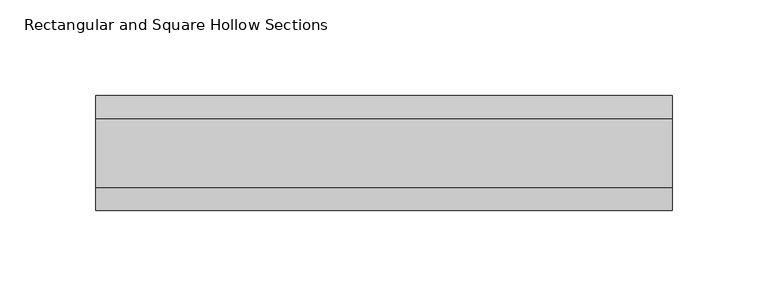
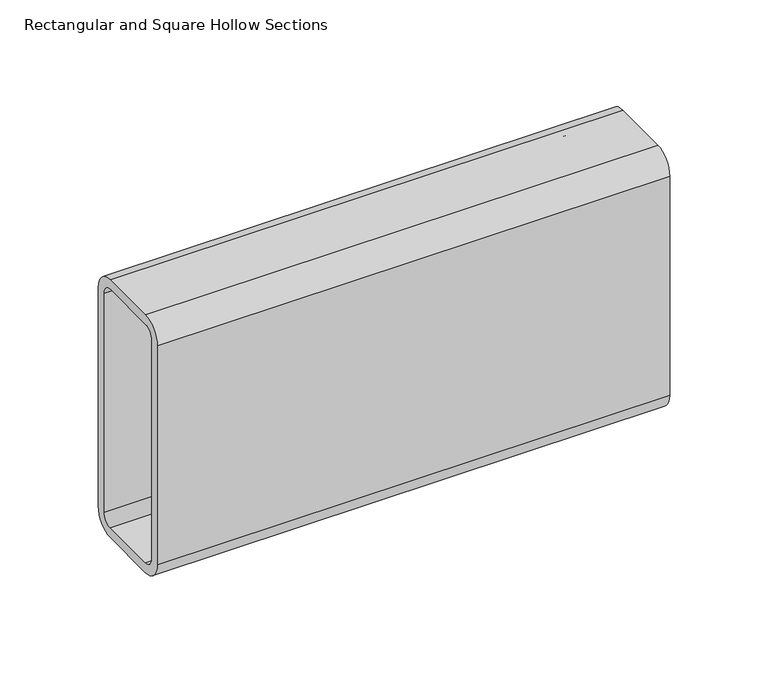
"""IFC4 building model written with IfcOpenShell, lengths in millimetres: beam geometry, Rectangular and Square Hollow Sections : TREC160x60x6."""

from ifc_helpers import new_model, si_unit, point, frame, frame_2d, origin, place, context, project, spatial, polyline, circle_curve, trimmed, segment, composite_curve, outline, extrude, source, transform, mapped, element, save


def rectangular_and_square_hollow_sections_c0d7c366(model_context):
    return source(origin(), model_context, "Body", "SweptSolid", [
        extrude(outline(composite_curve([segment(polyline([(30.0, 68.0), (30.0, -68.0)]), True, "CONTINUOUS"), segment(trimmed(circle_curve(frame_2d((18.0, -68.0)), 12.0), [point((30.0, -68.0))], [point((18.0, -80.0))], False, "CARTESIAN"), True, "CONTINUOUS"), segment(polyline([(18.0, -80.0), (-18.0, -80.0)]), True, "CONTINUOUS"), segment(trimmed(circle_curve(frame_2d((-18.0, -68.0)), 12.0), [point((-18.0, -80.0))], [point((-30.0, -68.0))], False, "CARTESIAN"), True, "CONTINUOUS"), segment(polyline([(-30.0, -68.0), (-30.0, 68.0)]), True, "CONTINUOUS"), segment(trimmed(circle_curve(frame_2d((-18.0, 68.0)), 12.0), [point((-30.0, 68.0))], [point((-18.0, 80.0))], False, "CARTESIAN"), True, "CONTINUOUS"), segment(polyline([(-18.0, 80.0), (18.0, 80.0)]), True, "CONTINUOUS"), segment(trimmed(circle_curve(frame_2d((18.0, 68.0)), 12.0), [point((18.0, 80.0))], [point((30.0, 68.0))], False, "CARTESIAN"), True, "CONTINUOUS")], self_intersect=False), holes=[composite_curve([segment(trimmed(circle_curve(frame_2d((-18.0, 68.0)), 6.0), [point((-18.0, 74.0))], [point((-24.0, 68.0))], True, "CARTESIAN"), True, "CONTINUOUS"), segment(polyline([(-24.0, 68.0), (-24.0, -68.0)]), True, "CONTINUOUS"), segment(trimmed(circle_curve(frame_2d((-18.0, -68.0)), 6.0), [point((-24.0, -68.0))], [point((-18.0, -74.0))], True, "CARTESIAN"), True, "CONTINUOUS"), segment(polyline([(-18.0, -74.0), (18.0, -74.0)]), True, "CONTINUOUS"), segment(trimmed(circle_curve(frame_2d((18.0, -68.0)), 6.0), [point((18.0, -74.0))], [point((24.0, -68.0))], True, "CARTESIAN"), True, "CONTINUOUS"), segment(polyline([(24.0, -68.0), (24.0, 68.0)]), True, "CONTINUOUS"), segment(trimmed(circle_curve(frame_2d((18.0, 68.0)), 6.0), [point((24.0, 68.0))], [point((18.0, 74.0))], True, "CARTESIAN"), True, "CONTINUOUS"), segment(polyline([(18.0, 74.0), (-18.0, 74.0)]), True, "CONTINUOUS")], self_intersect=False)]), frame((-144.0, 0.0, 0.0), z_axis=(1.0, 0.0, 0.0), x_axis=(0.0, 1.0, 0.0)), (0.0, 0.0, 1.0), 301.0),
    ])


if __name__ == "__main__":
    model = new_model("IFC4")
    model_context = context("Model", 3, world=origin())
    ifc_project = project(units=[si_unit("LENGTHUNIT", "METRE", prefix="MILLI")], contexts=[model_context])
    site = spatial("IfcSite", under=ifc_project)
    building = spatial("IfcBuilding", under=site)
    placement = place(None, origin())
    rectangular_and_square_hollow_sections_shape = rectangular_and_square_hollow_sections_c0d7c366(model_context)
    element("IfcBeam", 1, ObjectType="Rectangular and Square Hollow Sections : TREC160x60x6", at=placement, inside=building, context=model_context, shape_type="MappedRepresentation", body=[
        mapped(rectangular_and_square_hollow_sections_shape, transform((0.0, 0.0, 0.0), x_axis=(1.0, 0.0, 0.0), y_axis=(0.0, 1.0, 0.0), z_axis=(0.0, 0.0, 1.0))),
    ])
    save(model, "model.ifc")
